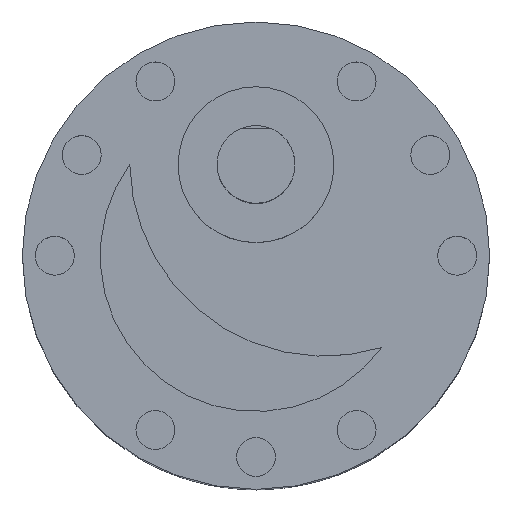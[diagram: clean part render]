
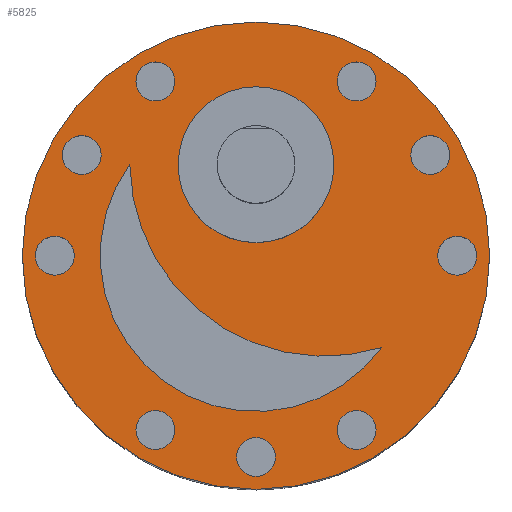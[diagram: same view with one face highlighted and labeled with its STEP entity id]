
A CAD part, top view. The second image highlights one B-rep face of the part: STEP entity #5825.
In plain terms, the highlighted planar face has unit normal (0, 0, 1).
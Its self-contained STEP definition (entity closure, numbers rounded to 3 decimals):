
#249=PLANE('',#6147);
#367=CIRCLE('',#6060,18.);
#382=CIRCLE('',#6099,6.);
#383=CIRCLE('',#6102,1.5);
#385=CIRCLE('',#6106,1.5);
#387=CIRCLE('',#6110,1.5);
#389=CIRCLE('',#6114,15.);
#391=CIRCLE('',#6117,12.);
#393=CIRCLE('',#6121,1.5);
#395=CIRCLE('',#6125,1.5);
#397=CIRCLE('',#6129,1.5);
#399=CIRCLE('',#6133,1.5);
#401=CIRCLE('',#6137,1.5);
#403=CIRCLE('',#6141,1.5);
#534=FACE_BOUND('',#1126,.T.);
#535=FACE_BOUND('',#1127,.T.);
#536=FACE_BOUND('',#1128,.T.);
#537=FACE_BOUND('',#1129,.T.);
#538=FACE_BOUND('',#1130,.T.);
#539=FACE_BOUND('',#1131,.T.);
#540=FACE_BOUND('',#1132,.T.);
#541=FACE_BOUND('',#1133,.T.);
#542=FACE_BOUND('',#1134,.T.);
#543=FACE_BOUND('',#1135,.T.);
#544=FACE_BOUND('',#1136,.T.);
#819=FACE_OUTER_BOUND('',#1125,.T.);
#1125=EDGE_LOOP('',(#4579));
#1126=EDGE_LOOP('',(#4580));
#1127=EDGE_LOOP('',(#4581));
#1128=EDGE_LOOP('',(#4582));
#1129=EDGE_LOOP('',(#4583));
#1130=EDGE_LOOP('',(#4584,#4585));
#1131=EDGE_LOOP('',(#4586));
#1132=EDGE_LOOP('',(#4587));
#1133=EDGE_LOOP('',(#4588));
#1134=EDGE_LOOP('',(#4589));
#1135=EDGE_LOOP('',(#4590));
#1136=EDGE_LOOP('',(#4591));
#2562=VERTEX_POINT('',#11465);
#2603=VERTEX_POINT('',#11591);
#2604=VERTEX_POINT('',#11596);
#2606=VERTEX_POINT('',#11603);
#2608=VERTEX_POINT('',#11610);
#2610=VERTEX_POINT('',#11617);
#2611=VERTEX_POINT('',#11618);
#2614=VERTEX_POINT('',#11630);
#2616=VERTEX_POINT('',#11637);
#2618=VERTEX_POINT('',#11644);
#2620=VERTEX_POINT('',#11651);
#2622=VERTEX_POINT('',#11658);
#2624=VERTEX_POINT('',#11665);
#3204=EDGE_CURVE('',#2562,#2562,#367,.T.);
#3265=EDGE_CURVE('',#2603,#2603,#382,.T.);
#3266=EDGE_CURVE('',#2604,#2604,#383,.T.);
#3269=EDGE_CURVE('',#2606,#2606,#385,.T.);
#3272=EDGE_CURVE('',#2608,#2608,#387,.T.);
#3275=EDGE_CURVE('',#2610,#2611,#389,.T.);
#3279=EDGE_CURVE('',#2611,#2610,#391,.T.);
#3281=EDGE_CURVE('',#2614,#2614,#393,.T.);
#3284=EDGE_CURVE('',#2616,#2616,#395,.T.);
#3287=EDGE_CURVE('',#2618,#2618,#397,.T.);
#3290=EDGE_CURVE('',#2620,#2620,#399,.T.);
#3293=EDGE_CURVE('',#2622,#2622,#401,.T.);
#3296=EDGE_CURVE('',#2624,#2624,#403,.T.);
#4579=ORIENTED_EDGE('',*,*,#3204,.T.);
#4580=ORIENTED_EDGE('',*,*,#3265,.T.);
#4581=ORIENTED_EDGE('',*,*,#3266,.T.);
#4582=ORIENTED_EDGE('',*,*,#3269,.T.);
#4583=ORIENTED_EDGE('',*,*,#3272,.T.);
#4584=ORIENTED_EDGE('',*,*,#3275,.T.);
#4585=ORIENTED_EDGE('',*,*,#3279,.T.);
#4586=ORIENTED_EDGE('',*,*,#3281,.T.);
#4587=ORIENTED_EDGE('',*,*,#3284,.T.);
#4588=ORIENTED_EDGE('',*,*,#3287,.T.);
#4589=ORIENTED_EDGE('',*,*,#3290,.T.);
#4590=ORIENTED_EDGE('',*,*,#3293,.T.);
#4591=ORIENTED_EDGE('',*,*,#3296,.T.);
#5825=ADVANCED_FACE('',(#819,#534,#535,#536,#537,#538,#539,#540,#541,#542,
#543,#544),#249,.T.);
#6060=AXIS2_PLACEMENT_3D('',#11467,#6805,#6806);
#6099=AXIS2_PLACEMENT_3D('',#11593,#6929,#6930);
#6102=AXIS2_PLACEMENT_3D('',#11597,#6935,#6936);
#6106=AXIS2_PLACEMENT_3D('',#11604,#6944,#6945);
#6110=AXIS2_PLACEMENT_3D('',#11611,#6953,#6954);
#6114=AXIS2_PLACEMENT_3D('',#11619,#6962,#6963);
#6117=AXIS2_PLACEMENT_3D('',#11626,#6970,#6971);
#6121=AXIS2_PLACEMENT_3D('',#11631,#6978,#6979);
#6125=AXIS2_PLACEMENT_3D('',#11638,#6987,#6988);
#6129=AXIS2_PLACEMENT_3D('',#11645,#6996,#6997);
#6133=AXIS2_PLACEMENT_3D('',#11652,#7005,#7006);
#6137=AXIS2_PLACEMENT_3D('',#11659,#7014,#7015);
#6141=AXIS2_PLACEMENT_3D('',#11666,#7023,#7024);
#6147=AXIS2_PLACEMENT_3D('',#11676,#7037,#7038);
#6805=DIRECTION('center_axis',(0.,0.,1.));
#6806=DIRECTION('ref_axis',(1.,0.,0.));
#6929=DIRECTION('center_axis',(0.,0.,-1.));
#6930=DIRECTION('ref_axis',(1.,0.,0.));
#6935=DIRECTION('center_axis',(0.,0.,-1.));
#6936=DIRECTION('ref_axis',(1.,0.,0.));
#6944=DIRECTION('center_axis',(0.,0.,-1.));
#6945=DIRECTION('ref_axis',(1.,0.,0.));
#6953=DIRECTION('center_axis',(0.,0.,-1.));
#6954=DIRECTION('ref_axis',(1.,0.,0.));
#6962=DIRECTION('center_axis',(0.,0.,1.));
#6963=DIRECTION('ref_axis',(1.,0.015,0.));
#6970=DIRECTION('center_axis',(0.,0.,-1.));
#6971=DIRECTION('ref_axis',(1.,0.,0.));
#6978=DIRECTION('center_axis',(0.,0.,-1.));
#6979=DIRECTION('ref_axis',(1.,0.,0.));
#6987=DIRECTION('center_axis',(0.,0.,-1.));
#6988=DIRECTION('ref_axis',(1.,0.,0.));
#6996=DIRECTION('center_axis',(0.,0.,-1.));
#6997=DIRECTION('ref_axis',(1.,0.,0.));
#7005=DIRECTION('center_axis',(0.,0.,-1.));
#7006=DIRECTION('ref_axis',(1.,0.,0.));
#7014=DIRECTION('center_axis',(0.,0.,-1.));
#7015=DIRECTION('ref_axis',(1.,0.,0.));
#7023=DIRECTION('center_axis',(0.,0.,-1.));
#7024=DIRECTION('ref_axis',(1.,0.,0.));
#7037=DIRECTION('center_axis',(0.,0.,1.));
#7038=DIRECTION('ref_axis',(1.,0.,0.));
#11465=CARTESIAN_POINT('',(-18.,0.,0.));
#11467=CARTESIAN_POINT('Origin',(0.,0.,0.));
#11591=CARTESIAN_POINT('',(-6.,7.,0.));
#11593=CARTESIAN_POINT('Origin',(0.,7.,0.));
#11596=CARTESIAN_POINT('',(-1.5,-15.5,0.));
#11597=CARTESIAN_POINT('Origin',(0.,-15.5,0.));
#11603=CARTESIAN_POINT('',(11.923,7.75,0.));
#11604=CARTESIAN_POINT('Origin',(13.423,7.75,0.));
#11610=CARTESIAN_POINT('',(-14.923,7.75,0.));
#11611=CARTESIAN_POINT('Origin',(-13.423,7.75,0.));
#11617=CARTESIAN_POINT('',(-9.722,7.034,0.));
#11618=CARTESIAN_POINT('',(9.691,-7.077,0.));
#11619=CARTESIAN_POINT('Origin',(5.276,7.259,0.));
#11626=CARTESIAN_POINT('Origin',(0.,0.,0.));
#11630=CARTESIAN_POINT('',(14.,0.,0.));
#11631=CARTESIAN_POINT('Origin',(15.5,0.,0.));
#11637=CARTESIAN_POINT('',(-17.,0.,0.));
#11638=CARTESIAN_POINT('Origin',(-15.5,0.,0.));
#11644=CARTESIAN_POINT('',(6.25,13.423,0.));
#11645=CARTESIAN_POINT('Origin',(7.75,13.423,0.));
#11651=CARTESIAN_POINT('',(6.25,-13.423,0.));
#11652=CARTESIAN_POINT('Origin',(7.75,-13.423,0.));
#11658=CARTESIAN_POINT('',(-9.25,-13.423,0.));
#11659=CARTESIAN_POINT('Origin',(-7.75,-13.423,0.));
#11665=CARTESIAN_POINT('',(-9.25,13.423,0.));
#11666=CARTESIAN_POINT('Origin',(-7.75,13.423,0.));
#11676=CARTESIAN_POINT('Origin',(0.,0.,0.));
